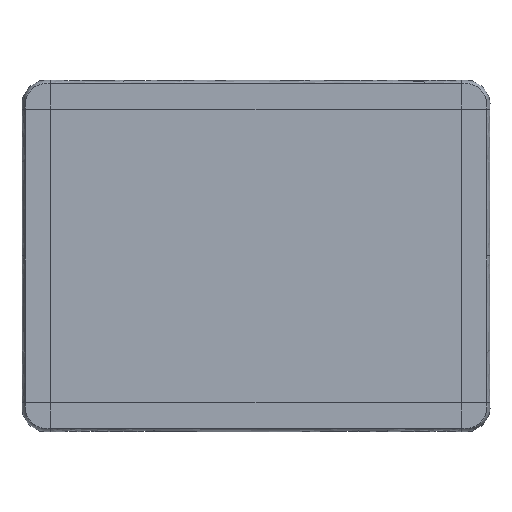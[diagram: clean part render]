
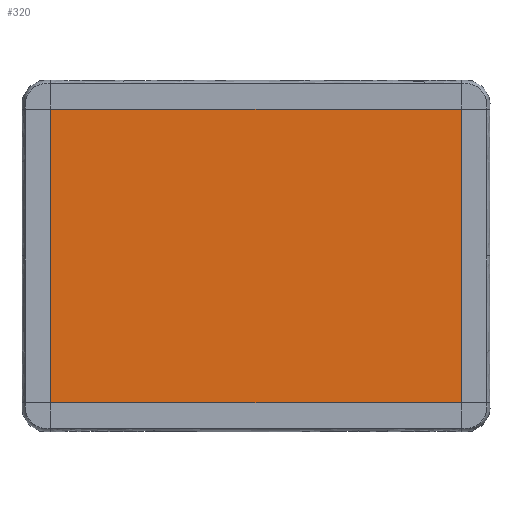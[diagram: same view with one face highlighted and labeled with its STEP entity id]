
A CAD part, top view. The second image highlights one B-rep face of the part: STEP entity #320.
In plain terms, the highlighted planar face has unit normal (0, 0, 1).
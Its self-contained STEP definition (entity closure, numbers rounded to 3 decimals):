
#320=ADVANCED_FACE('',(#452),#2166,.T.);
#452=FACE_OUTER_BOUND('',#584,.T.);
#584=EDGE_LOOP('',(#775,#776,#777,#778,#779,#780,#781,#782));
#775=ORIENTED_EDGE('',*,*,#1435,.T.);
#776=ORIENTED_EDGE('',*,*,#1436,.T.);
#777=ORIENTED_EDGE('',*,*,#1437,.T.);
#778=ORIENTED_EDGE('',*,*,#1438,.T.);
#779=ORIENTED_EDGE('',*,*,#1439,.T.);
#780=ORIENTED_EDGE('',*,*,#1440,.T.);
#781=ORIENTED_EDGE('',*,*,#1441,.T.);
#782=ORIENTED_EDGE('',*,*,#1442,.T.);
#1435=EDGE_CURVE('',#1927,#1928,#1765,.T.);
#1436=EDGE_CURVE('',#1928,#1929,#1766,.T.);
#1437=EDGE_CURVE('',#1929,#1930,#1767,.T.);
#1438=EDGE_CURVE('',#1930,#1931,#1768,.T.);
#1439=EDGE_CURVE('',#1931,#1932,#1769,.T.);
#1440=EDGE_CURVE('',#1932,#1933,#1770,.T.);
#1441=EDGE_CURVE('',#1933,#1934,#1771,.T.);
#1442=EDGE_CURVE('',#1934,#1927,#1772,.T.);
#1765=B_SPLINE_CURVE_WITH_KNOTS('',1,(#8043,#8044),.UNSPECIFIED.,.F.,.F.,
(2,2),(408.475,408.517),.UNSPECIFIED.);
#1766=B_SPLINE_CURVE_WITH_KNOTS('',1,(#8045,#8046),.UNSPECIFIED.,.F.,.F.,
(2,2),(408.517,783.951),.UNSPECIFIED.);
#1767=B_SPLINE_CURVE_WITH_KNOTS('',1,(#8047,#8048),.UNSPECIFIED.,.F.,.F.,
(2,2),(783.951,783.993),.UNSPECIFIED.);
#1768=B_SPLINE_CURVE_WITH_KNOTS('',1,(#8049,#8050),.UNSPECIFIED.,.F.,.F.,
(2,2),(413.025,789.178),.UNSPECIFIED.);
#1769=B_SPLINE_CURVE_WITH_KNOTS('',1,(#8051,#8052),.UNSPECIFIED.,.F.,.F.,
(2,2),(789.178,789.22),.UNSPECIFIED.);
#1770=B_SPLINE_CURVE_WITH_KNOTS('',1,(#8053,#8054),.UNSPECIFIED.,.F.,.F.,
(2,2),(789.22,1164.654),.UNSPECIFIED.);
#1771=B_SPLINE_CURVE_WITH_KNOTS('',1,(#8055,#8056),.UNSPECIFIED.,.F.,.F.,
(2,2),(1164.654,1164.696),.UNSPECIFIED.);
#1772=B_SPLINE_CURVE_WITH_KNOTS('',1,(#8057,#8058),.UNSPECIFIED.,.F.,.F.,
(2,2),(1164.696,1540.849),.UNSPECIFIED.);
#1927=VERTEX_POINT('',#7995);
#1928=VERTEX_POINT('',#7996);
#1929=VERTEX_POINT('',#7997);
#1930=VERTEX_POINT('',#7998);
#1931=VERTEX_POINT('',#7999);
#1932=VERTEX_POINT('',#8000);
#1933=VERTEX_POINT('',#8001);
#1934=VERTEX_POINT('',#8002);
#2166=PLANE('',#2212);
#2212=AXIS2_PLACEMENT_3D('',#2270,#2241,$);
#2241=DIRECTION('',(0.,0.,1.));
#2270=CARTESIAN_POINT('',(-267.971,-191.838,400.));
#7995=CARTESIAN_POINT('',(-262.717,-188.076,400.));
#7996=CARTESIAN_POINT('',(-262.658,-188.076,400.));
#7997=CARTESIAN_POINT('',(262.658,-188.076,400.));
#7998=CARTESIAN_POINT('',(262.717,-188.076,400.));
#7999=CARTESIAN_POINT('',(262.717,188.076,400.));
#8000=CARTESIAN_POINT('',(262.658,188.076,400.));
#8001=CARTESIAN_POINT('',(-262.658,188.076,400.));
#8002=CARTESIAN_POINT('',(-262.717,188.076,400.));
#8043=CARTESIAN_POINT('',(-262.717,-188.076,400.));
#8044=CARTESIAN_POINT('',(-262.658,-188.076,400.));
#8045=CARTESIAN_POINT('',(-262.658,-188.076,400.));
#8046=CARTESIAN_POINT('',(262.658,-188.076,400.));
#8047=CARTESIAN_POINT('',(262.658,-188.076,400.));
#8048=CARTESIAN_POINT('',(262.717,-188.076,400.));
#8049=CARTESIAN_POINT('',(262.717,-188.076,400.));
#8050=CARTESIAN_POINT('',(262.717,188.076,400.));
#8051=CARTESIAN_POINT('',(262.717,188.076,400.));
#8052=CARTESIAN_POINT('',(262.658,188.076,400.));
#8053=CARTESIAN_POINT('',(262.658,188.076,400.));
#8054=CARTESIAN_POINT('',(-262.658,188.076,400.));
#8055=CARTESIAN_POINT('',(-262.658,188.076,400.));
#8056=CARTESIAN_POINT('',(-262.717,188.076,400.));
#8057=CARTESIAN_POINT('',(-262.717,188.076,400.));
#8058=CARTESIAN_POINT('',(-262.717,-188.076,400.));
